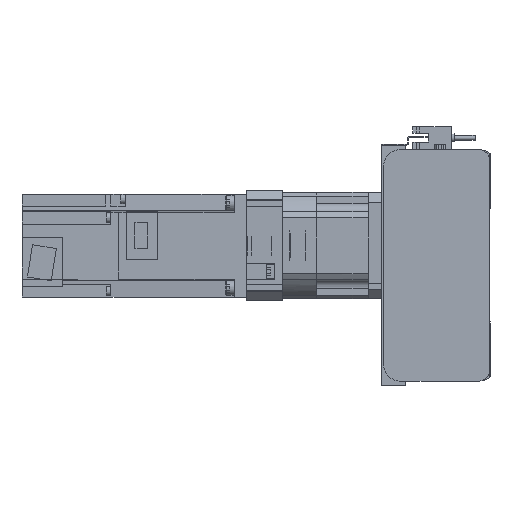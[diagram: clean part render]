
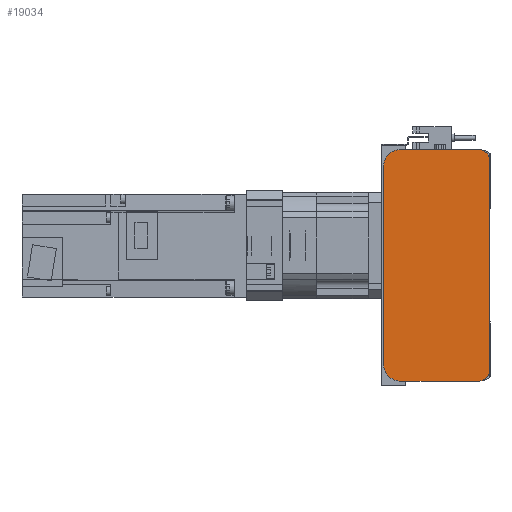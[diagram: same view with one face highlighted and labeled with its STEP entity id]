
A CAD part, left-side view. The second image highlights one B-rep face of the part: STEP entity #19034.
In plain terms, the highlighted planar face has unit normal (-1, 0, 0).
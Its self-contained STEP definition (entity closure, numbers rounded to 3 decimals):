
#1196=CIRCLE('',#20851,5.);
#1197=CIRCLE('',#20854,5.);
#1198=CIRCLE('',#20857,10.);
#1199=CIRCLE('',#20860,10.);
#5695=ORIENTED_EDGE('',*,*,#8603,.F.);
#5696=ORIENTED_EDGE('',*,*,#8760,.F.);
#5697=ORIENTED_EDGE('',*,*,#8752,.F.);
#5698=ORIENTED_EDGE('',*,*,#8750,.F.);
#5699=ORIENTED_EDGE('',*,*,#8395,.F.);
#5700=ORIENTED_EDGE('',*,*,#8749,.F.);
#5701=ORIENTED_EDGE('',*,*,#8747,.F.);
#5702=ORIENTED_EDGE('',*,*,#8745,.F.);
#5703=ORIENTED_EDGE('',*,*,#8743,.F.);
#5704=ORIENTED_EDGE('',*,*,#8741,.F.);
#8395=EDGE_CURVE('',#10430,#10431,#12120,.T.);
#8603=EDGE_CURVE('',#10531,#10532,#12263,.T.);
#8741=EDGE_CURVE('',#10532,#10615,#12392,.T.);
#8743=EDGE_CURVE('',#10615,#10616,#1196,.T.);
#8745=EDGE_CURVE('',#10616,#10617,#12395,.T.);
#8747=EDGE_CURVE('',#10617,#10618,#1197,.T.);
#8749=EDGE_CURVE('',#10618,#10430,#12398,.T.);
#8750=EDGE_CURVE('',#10431,#10619,#1198,.T.);
#8752=EDGE_CURVE('',#10619,#10620,#12400,.T.);
#8760=EDGE_CURVE('',#10620,#10531,#1199,.T.);
#10430=VERTEX_POINT('',#31200);
#10431=VERTEX_POINT('',#31202);
#10531=VERTEX_POINT('',#31585);
#10532=VERTEX_POINT('',#31587);
#10615=VERTEX_POINT('',#31864);
#10616=VERTEX_POINT('',#31868);
#10617=VERTEX_POINT('',#31872);
#10618=VERTEX_POINT('',#31876);
#10619=VERTEX_POINT('',#31882);
#10620=VERTEX_POINT('',#31886);
#12120=LINE('',#31201,#13833);
#12263=LINE('',#31586,#13976);
#12392=LINE('',#31863,#14105);
#12395=LINE('',#31871,#14108);
#12398=LINE('',#31879,#14111);
#12400=LINE('',#31885,#14113);
#13833=VECTOR('',#25248,1000.);
#13976=VECTOR('',#25673,1000.);
#14105=VECTOR('',#25932,1000.);
#14108=VECTOR('',#25941,1000.);
#14111=VECTOR('',#25950,1000.);
#14113=VECTOR('',#25958,1000.);
#15513=EDGE_LOOP('',(#5695,#5696,#5697,#5698,#5699,#5700,#5701,#5702,#5703,
#5704));
#17132=FACE_BOUND('',#15513,.T.);
#18023=PLANE('',#20861);
#19034=ADVANCED_FACE('',(#17132),#18023,.F.);
#20851=AXIS2_PLACEMENT_3D('',#31867,#25936,#25937);
#20854=AXIS2_PLACEMENT_3D('',#31875,#25945,#25946);
#20857=AXIS2_PLACEMENT_3D('',#31881,#25953,#25954);
#20860=AXIS2_PLACEMENT_3D('',#31899,#25968,#25969);
#20861=AXIS2_PLACEMENT_3D('',#31900,#25970,#25971);
#25248=DIRECTION('',(0.,1.,0.));
#25673=DIRECTION('',(0.,-1.,0.));
#25932=DIRECTION('',(0.,-0.942,-0.336));
#25936=DIRECTION('',(1.,0.,0.));
#25937=DIRECTION('',(0.,0.,-1.));
#25941=DIRECTION('',(0.,0.,-1.));
#25945=DIRECTION('',(1.,0.,0.));
#25946=DIRECTION('',(0.,0.,-1.));
#25950=DIRECTION('',(0.,0.942,-0.336));
#25953=DIRECTION('',(1.,0.,0.));
#25954=DIRECTION('',(0.,0.,-1.));
#25958=DIRECTION('',(0.,0.,1.));
#25968=DIRECTION('',(1.,0.,0.));
#25969=DIRECTION('',(0.,0.,-1.));
#25970=DIRECTION('',(1.,0.,0.));
#25971=DIRECTION('',(0.,0.,-1.));
#31200=CARTESIAN_POINT('',(-10.,6.,-67.5));
#31201=CARTESIAN_POINT('',(-10.,6.,-67.5));
#31202=CARTESIAN_POINT('',(-10.,52.,-67.5));
#31585=CARTESIAN_POINT('',(-10.,52.,67.5));
#31586=CARTESIAN_POINT('',(-10.,52.,67.5));
#31587=CARTESIAN_POINT('',(-10.,6.,67.5));
#31863=CARTESIAN_POINT('',(-10.,6.,67.5));
#31864=CARTESIAN_POINT('',(-10.,3.822,66.724));
#31867=CARTESIAN_POINT('',(-10.,5.5,62.014));
#31868=CARTESIAN_POINT('',(-10.,0.5,62.014));
#31871=CARTESIAN_POINT('',(-10.,0.5,62.014));
#31872=CARTESIAN_POINT('',(-10.,0.5,-62.014));
#31875=CARTESIAN_POINT('',(-10.,5.5,-62.014));
#31876=CARTESIAN_POINT('',(-10.,3.822,-66.724));
#31879=CARTESIAN_POINT('',(-10.,3.822,-66.724));
#31881=CARTESIAN_POINT('',(-10.,52.,-57.5));
#31882=CARTESIAN_POINT('',(-10.,62.,-57.5));
#31885=CARTESIAN_POINT('',(-10.,62.,-57.5));
#31886=CARTESIAN_POINT('',(-10.,62.,57.5));
#31899=CARTESIAN_POINT('',(-10.,52.,57.5));
#31900=CARTESIAN_POINT('',(-10.,5.5,62.014));
